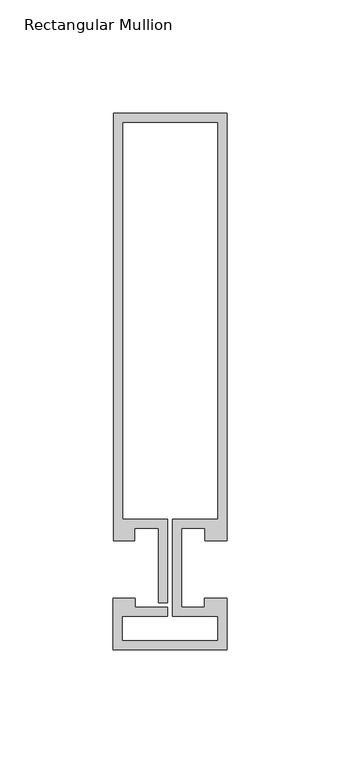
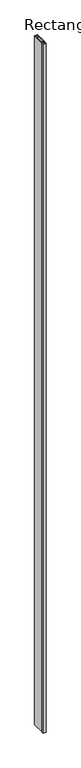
"""IFC4 building model written with IfcOpenShell, lengths in millimetres: member geometry, Rectangular Mullion : Reynaers_CW-50_Transom-Transom_188.5mm_Facecap-02C."""

from ifc_helpers import new_model, si_unit, frame, origin, place, context, project, spatial, polyline, outline, extrude, source, transform, mapped, element, save


def rectangular_mullion_ba95baed(model_context):
    return source(origin(), model_context, "Body", "SweptSolid", [
        extrude(outline(polyline([(25.1995941, -12.7331291), (25.1995941, -35.5313894), (-24.994845, -35.5313894), (-24.994845, -12.7331291), (-15.2996495, -12.7331291), (-15.2996495, -16.7331291), (-0.9004059, -16.7331291), (-0.9004059, -20.7331291), (-20.994845, -20.7331291), (-20.994845, -31.5313894), (21.1995941, -31.5313894), (21.1995941, -20.7331291), (1.2995941, -20.7331291), (1.2995941, 22.1331291), (21.1995941, 22.1331291), (21.1995941, 197.2331291), (-20.8004059, 197.2331291), (-20.8004059, 22.1331291), (-0.9004059, 22.1331291), (-0.9004059, -14.7331291), (-4.9004059, -14.7331291), (-4.9004059, 18.1331291), (-15.499, 18.1331291), (-15.499, 12.7331291), (-24.8004059, 12.7331291), (-24.8004059, 201.2331291), (25.1995941, 201.2331291), (25.1995941, 12.7331291), (15.499, 12.7331291), (15.499, 18.1331291), (5.2995941, 18.1331291), (5.2995941, -16.7331291), (15.2996495, -16.7331291), (15.2996495, -12.7331291), (25.1995941, -12.7331291)])), frame((0.0, 0.0, -12000.0), z_axis=(0.0, 0.0, 1.0), x_axis=(1.0, 0.0, 0.0)), (0.0, 0.0, 1.0), 12000.0),
    ])


if __name__ == "__main__":
    model = new_model("IFC4")
    model_context = context("Model", 3, world=origin())
    ifc_project = project(units=[si_unit("LENGTHUNIT", "METRE", prefix="MILLI")], contexts=[model_context])
    site = spatial("IfcSite", under=ifc_project)
    building = spatial("IfcBuilding", under=site)
    placement = place(None, origin())
    rectangular_mullion_shape = rectangular_mullion_ba95baed(model_context)
    element("IfcMember", 1, ObjectType="Rectangular Mullion : Reynaers_CW-50_Transom-Transom_188.5mm_Facecap-02C", at=placement, inside=building, context=model_context, shape_type="MappedRepresentation", body=[
        mapped(rectangular_mullion_shape, transform((0.0, 0.0, 0.0), x_axis=(1.0, 0.0, 0.0), y_axis=(0.0, 1.0, 0.0), z_axis=(0.0, 0.0, 1.0))),
    ])
    save(model, "model.ifc")
